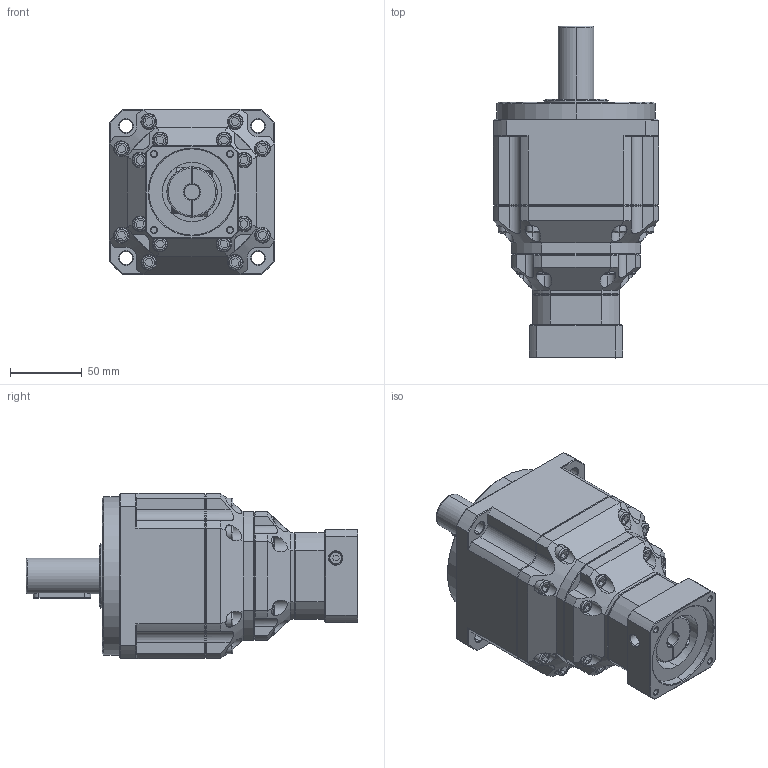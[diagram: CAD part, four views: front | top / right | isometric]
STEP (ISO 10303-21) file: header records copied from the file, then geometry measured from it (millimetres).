
FILE_DESCRIPTION (( 'STEP AP214' ), '1' );
FILE_NAME ('ZPB115-D25-L3-P1-11-60-75-M5.step', '2024-06-12T09:53:12', ( 'Windows 蚚誧' ), ( 'Organization' ), 'SwSTEP 2.0', 'SolidWorks 2016', '' );
FILE_SCHEMA (( 'AUTOMOTIVE_DESIGN' ));
Length unit declared in the file: millimetre
Products named in the file (1): ZPB115-D25-L3-P1-11-60-75-M5
Bounding box: 115 x 231 x 115 mm (x, y, z)
Surface area: 112887.5 mm2 (no closed solid volume)
Topology: 0 solids, 2 shells, 1967 faces, 5301 edges, 3447 vertices
Faces by surface type: plane 1122, bspline 414, cylinder 256, cone 175
Full cylindrical faces by diameter (mm): 10.2 x4
Entity records: 105618 total; most frequent: CARTESIAN_POINT 51764, ORIENTED_EDGE 10404, DIRECTION 7798, EDGE_CURVE 5211, LINE 3408, VECTOR 3408, VERTEX_POINT 3383, AXIS2_PLACEMENT_3D 2195
